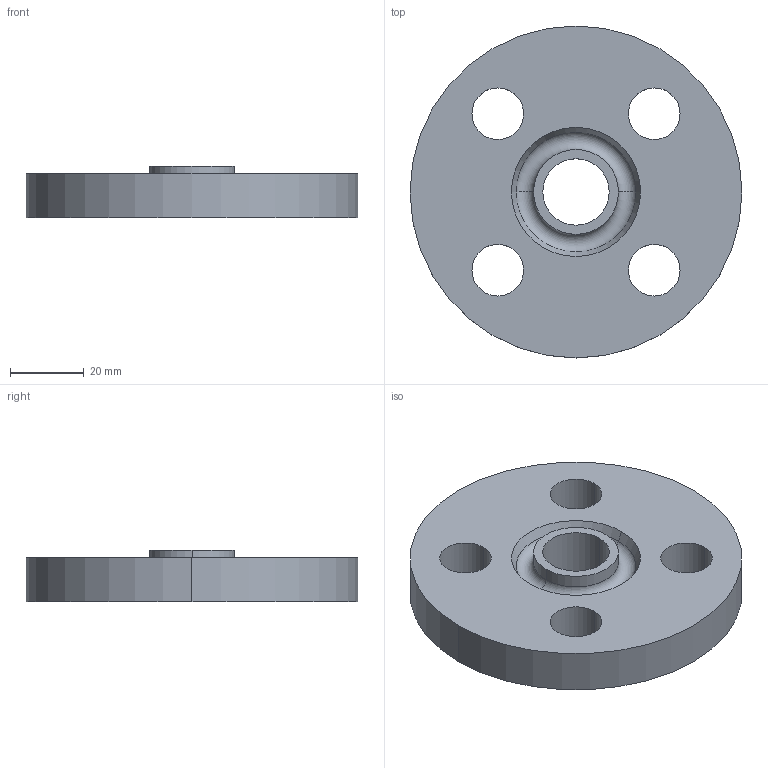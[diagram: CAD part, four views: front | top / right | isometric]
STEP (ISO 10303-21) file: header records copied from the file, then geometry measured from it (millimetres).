
FILE_DESCRIPTION (( 'STEP AP214' ), '1' );
FILE_NAME ('PN40 DN10 Type 01 - Type H Face.STEP', '2018-12-29T05:25:21', ( '' ), ( '' ), 'SwSTEP 2.0', 'SolidWorks 2019', '' );
FILE_SCHEMA (( 'AUTOMOTIVE_DESIGN' ));
Length unit declared in the file: millimetre
Products named in the file (1): PN40 DN10 Type 01 - Type H Face
Bounding box: 90 x 90 x 14 mm (x, y, z)
Volume: 64584.7 mm3; surface area: 17864.5 mm2
Topology: 1 solids, 1 shells, 21 faces, 50 edges, 32 vertices
Faces by surface type: cylinder 14, plane 3, torus 2, cone 2
Entity records: 680 total; most frequent: DIRECTION 128, CARTESIAN_POINT 104, ORIENTED_EDGE 100, AXIS2_PLACEMENT_3D 56, EDGE_CURVE 50, CIRCLE 34, VERTEX_POINT 32, EDGE_LOOP 32
